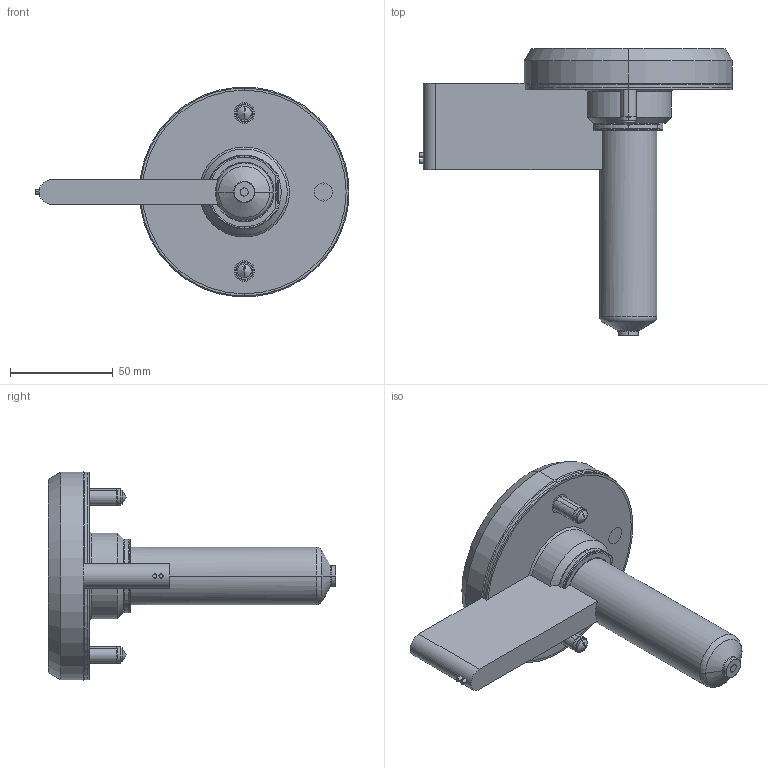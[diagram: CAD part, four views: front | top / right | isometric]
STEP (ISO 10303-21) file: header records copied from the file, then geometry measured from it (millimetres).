
FILE_DESCRIPTION (( 'STEP AP214' ), '1' );
FILE_NAME ('SOHSB6100-SOSRT0601.STEP', '2024-11-29T06:29:26', ( '' ), ( '' ), 'SwSTEP 2.0', 'SolidWorks 2022', '' );
FILE_SCHEMA (( 'AUTOMOTIVE_DESIGN' ));
Length unit declared in the file: millimetre
Products named in the file (9): EcoONE-HSB06-06003(A)_SOHSBNB6100; EcoONE-HSB06-06005_SOTC10200-J; EcoONE-HSB06-00002(A)_SOHSBLR06; EcoONE-HSB06-Open Gate Sprue Tip_SOSRT0601; SOHSB6100-SOSRT0601; hexagon socket head cap screws gb_GB_FASTENER_SCREWS_HSHCS M8X25-C; EcoONE-HSB06-06004_SONH18095; EcoONE-HSB06-Open Gate Cut-out Details_Sprue Gate or Full Body Gate; EcoONE-HSB06-06006(A)_SONHC06
Assembly tree (10 placements, depth 2):
  SOHSB6100-SOSRT0601
    EcoONE-HSB06-06003(A)_SOHSBNB6100
    EcoONE-HSB06-06004_SONH18095
    EcoONE-HSB06-06005_SOTC10200-J
    EcoONE-HSB06-06006(A)_SONHC06  x2
    EcoONE-HSB06-00002(A)_SOHSBLR06
    hexagon socket head cap screws gb_GB_FASTENER_SCREWS_HSHCS M8X25-C  x2
    EcoONE-HSB06-Open Gate Sprue Tip_SOSRT0601
    EcoONE-HSB06-Open Gate Cut-out Details_Sprue Gate or Full Body Gate
Bounding box: 153.01 x 140 x 102.14 mm (x, y, z)
Volume: 326067.1 mm3; surface area: 93648.3 mm2
Topology: 10 solids, 10 shells, 481 faces, 1218 edges, 768 vertices
Faces by surface type: cylinder 150, plane 130, bspline 96, cone 75, torus 22, sphere 8
Entity records: 27984 total; most frequent: CARTESIAN_POINT 17278, ORIENTED_EDGE 2216, DIRECTION 1849, EDGE_CURVE 1108, AXIS2_PLACEMENT_3D 746, VERTEX_POINT 705, EDGE_LOOP 479, FACE_OUTER_BOUND 440
